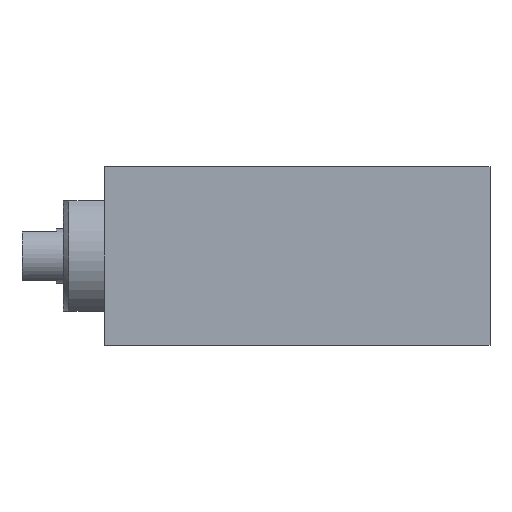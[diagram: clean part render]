
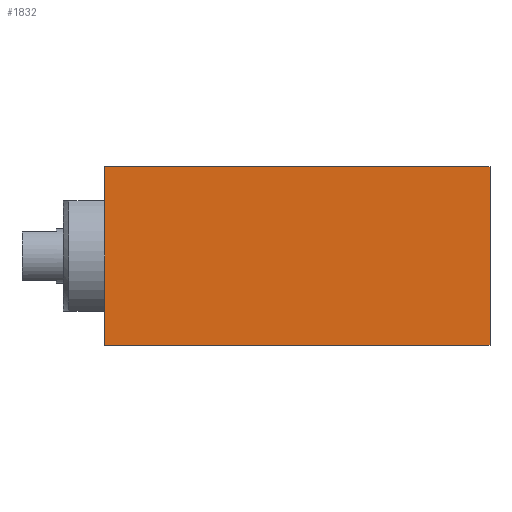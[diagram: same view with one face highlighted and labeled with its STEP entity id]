
A CAD part, front view. The second image highlights one B-rep face of the part: STEP entity #1832.
In plain terms, the highlighted planar face has unit normal (0, -1, 0).
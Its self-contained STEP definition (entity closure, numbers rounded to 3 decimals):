
#11 = CARTESIAN_POINT ( 'NONE',  ( 28., -10., -6.5 ) ) ;
#97 = EDGE_CURVE ( 'NONE', #2197, #2757, #1810, .T. ) ;
#218 = CARTESIAN_POINT ( 'NONE',  ( 28., -10., -6.5 ) ) ;
#260 = ORIENTED_EDGE ( 'NONE', *, *, #1930, .T. ) ;
#277 = CARTESIAN_POINT ( 'NONE',  ( 0., -10., -6.5 ) ) ;
#314 = VECTOR ( 'NONE', #721, 1000. ) ;
#372 = CARTESIAN_POINT ( 'NONE',  ( 28., -10., -6.5 ) ) ;
#479 = VECTOR ( 'NONE', #576, 1000. ) ;
#576 = DIRECTION ( 'NONE',  ( 0., 0., 1. ) ) ;
#608 = CARTESIAN_POINT ( 'NONE',  ( 0., -10., -6.5 ) ) ;
#682 = VECTOR ( 'NONE', #2489, 1000. ) ;
#721 = DIRECTION ( 'NONE',  ( -1., 0., 0. ) ) ;
#754 = LINE ( 'NONE', #372, #479 ) ;
#803 = EDGE_LOOP ( 'NONE', ( #1880, #1527, #1217, #260 ) ) ;
#920 = LINE ( 'NONE', #1639, #314 ) ;
#1180 = DIRECTION ( 'NONE',  ( 0., 0., 1. ) ) ;
#1217 = ORIENTED_EDGE ( 'NONE', *, *, #2613, .T. ) ;
#1361 = AXIS2_PLACEMENT_3D ( 'NONE', #218, #2420, #1553 ) ;
#1490 = VERTEX_POINT ( 'NONE', #1563 ) ;
#1527 = ORIENTED_EDGE ( 'NONE', *, *, #97, .F. ) ;
#1538 = PLANE ( 'NONE',  #1361 ) ;
#1553 = DIRECTION ( 'NONE',  ( 1., 0., 0. ) ) ;
#1563 = CARTESIAN_POINT ( 'NONE',  ( 0., -10., 6.5 ) ) ;
#1639 = CARTESIAN_POINT ( 'NONE',  ( 28., -10., 6.5 ) ) ;
#1717 = VECTOR ( 'NONE', #1180, 1000. ) ;
#1810 = LINE ( 'NONE', #11, #682 ) ;
#1832 = ADVANCED_FACE ( 'NONE', ( #2621 ), #1538, .T. ) ;
#1880 = ORIENTED_EDGE ( 'NONE', *, *, #2226, .F. ) ;
#1930 = EDGE_CURVE ( 'NONE', #2416, #1490, #920, .T. ) ;
#2185 = CARTESIAN_POINT ( 'NONE',  ( 28., -10., 6.5 ) ) ;
#2197 = VERTEX_POINT ( 'NONE', #2767 ) ;
#2226 = EDGE_CURVE ( 'NONE', #2757, #1490, #2528, .T. ) ;
#2416 = VERTEX_POINT ( 'NONE', #2185 ) ;
#2420 = DIRECTION ( 'NONE',  ( 0., -1., 0. ) ) ;
#2489 = DIRECTION ( 'NONE',  ( -1., 0., 0. ) ) ;
#2528 = LINE ( 'NONE', #277, #1717 ) ;
#2613 = EDGE_CURVE ( 'NONE', #2197, #2416, #754, .T. ) ;
#2621 = FACE_OUTER_BOUND ( 'NONE', #803, .T. ) ;
#2757 = VERTEX_POINT ( 'NONE', #608 ) ;
#2767 = CARTESIAN_POINT ( 'NONE',  ( 28., -10., -6.5 ) ) ;
